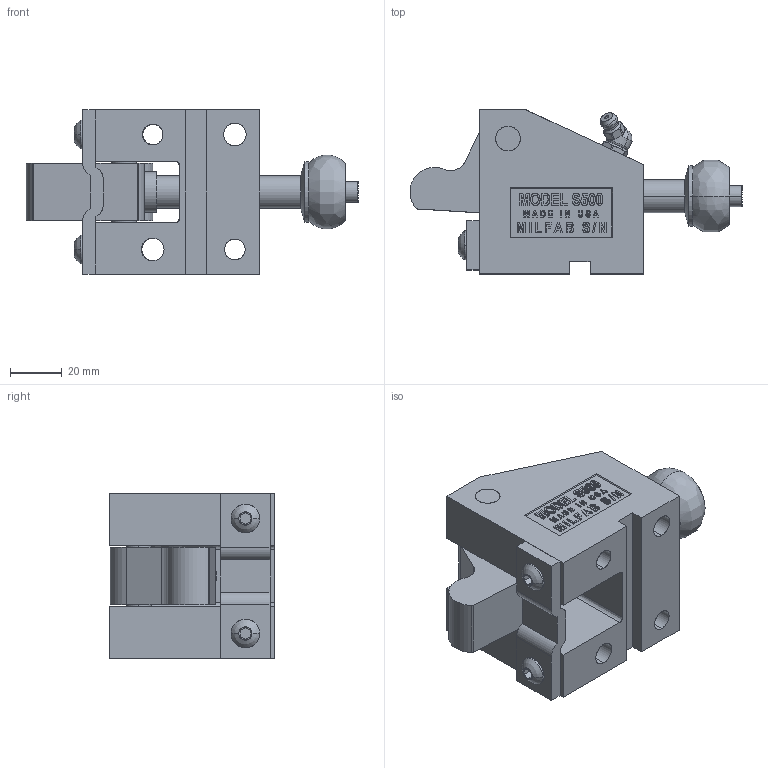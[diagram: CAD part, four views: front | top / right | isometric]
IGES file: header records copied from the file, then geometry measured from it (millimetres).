
Start section: SolidWorks IGES file using analytic representation for surfaces
Global section: file name: Y:\JIM'S INCH CAM UNITS\S50045\CLOSED\S50045-C.IGS; native system: SolidWorks 2006 by SolidWorks Corporation; preprocessor: SolidWorks 2006 by SolidWorks Corporation; author: Jim; date: 090207.151615; units: inch
Bounding box: 128.38 x 63.5 x 63.5 mm (x, y, z)
Surface area: 53872.6 mm2 (no closed solid volume)
Topology: 0 solids, 0 shells, 571 faces, 7397 edges, 7395 vertices
Faces by surface type: bspline 445, revolution 126
